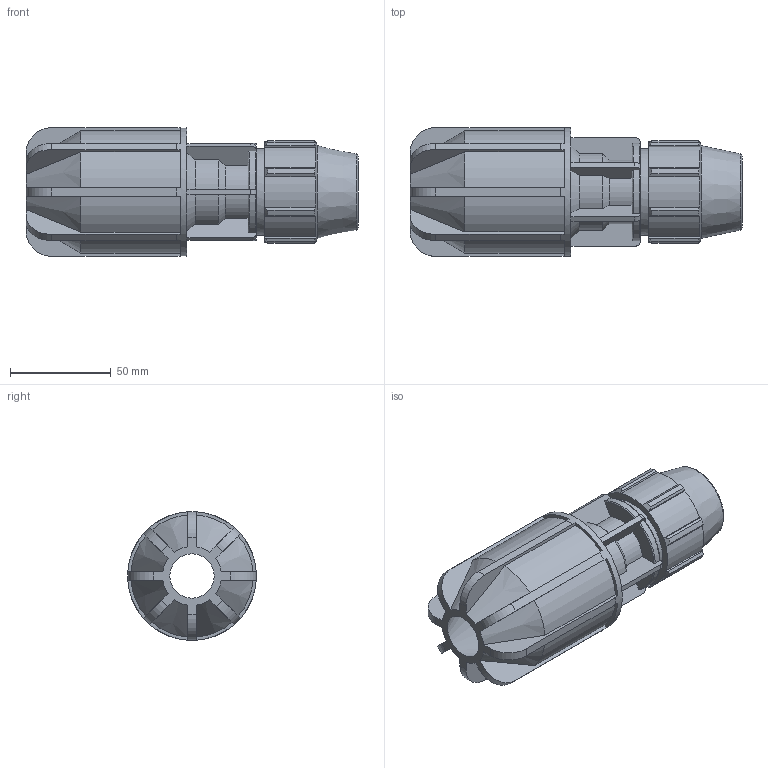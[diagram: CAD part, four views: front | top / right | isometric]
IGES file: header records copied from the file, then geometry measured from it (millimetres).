
Global section: file name: 070170025022_180170025022_0701760250220A.ipt; native system: Autodesk Inventor 2015; preprocessor: unknown; author: KIM; date: 20170606.172100; units: millimetre
Bounding box: 165 x 64 x 64 mm (x, y, z)
Volume: 227465.8 mm3; surface area: 57644.6 mm2
Topology: 1 solids, 1 shells, 220 faces, 635 edges, 422 vertices
Faces by surface type: plane 111, cylinder 58, cone 30, revolution 21
Full cylindrical faces by diameter (mm): 43.2 x1, 64 x1
